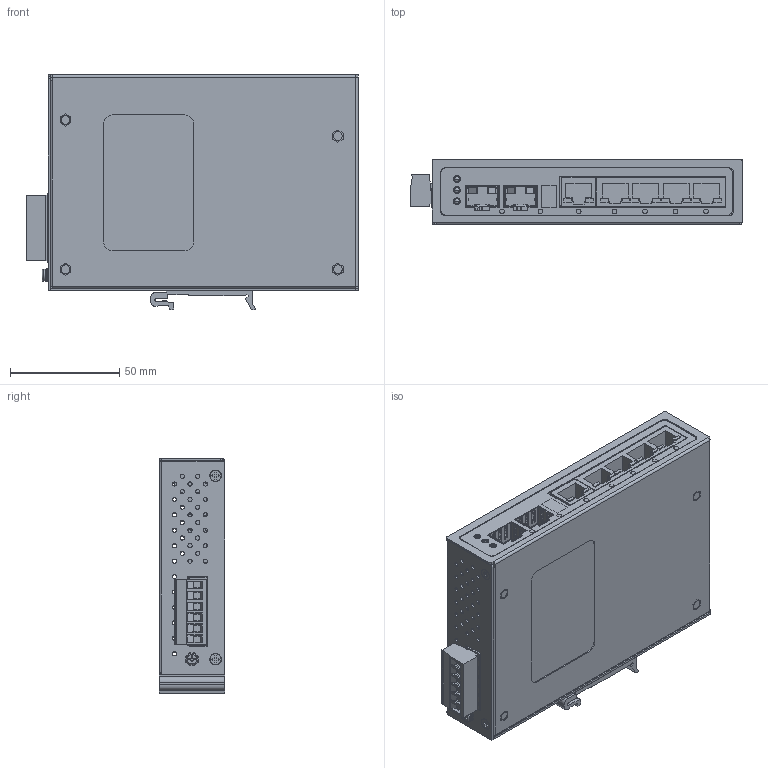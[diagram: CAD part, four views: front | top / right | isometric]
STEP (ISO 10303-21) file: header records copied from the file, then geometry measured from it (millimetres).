
FILE_DESCRIPTION((''),'2;1');
FILE_NAME('PT2-0702-SFP_ASM','2020-02-18T',('ASUS'),(''),'PRO/ENGINEER BY PARAMETRIC TECHNOLOGY CORPORATION, 2009440','PRO/ENGINEER BY PARAMETRIC TECHNOLOGY CORPORATION, 2009440','');
FILE_SCHEMA(('CONFIG_CONTROL_DESIGN'));
Products named in the file (22): PRT0001; PRT0002; PRT0003; ASM0003_ASM_ASM; PRT0004; PRT0005; PRT0006; ASM0006_ASM_ASM; ASM0005_ASM_ASM; PRT0007; PRT0008; PRT0009; ASM0004_ASM_ASM; PRT0015; PRT0016; PRT0017; PRT0018; PRT0019; PRT0020; ASM0002_ASM_ASM; PT2-0702-SFP_ASM_ASM; PT2-0702-SFP_ASM
Assembly tree (39 placements, depth 7):
  PT2-0702-SFP_ASM
    PT2-0702-SFP_ASM_ASM
      ASM0002_ASM_ASM
        ASM0003_ASM_ASM
          PRT0001
          PRT0002  x4
          PRT0003
        ASM0004_ASM_ASM
          PRT0004
          PRT0005
          ASM0005_ASM_ASM
            ASM0006_ASM_ASM
              PRT0006
          PRT0007  x6
          PRT0008
          PRT0009  x2
        PRT0015
        PRT0016  x10
        PRT0017
        PRT0018
        PRT0019
        PRT0020
Bounding box: 152.14 x 30 x 107.81 mm (x, y, z)
Volume: 73123.2 mm3; surface area: 121998.8 mm2
Topology: 33 solids, 39 shells, 4245 faces, 11942 edges, 7802 vertices
Faces by surface type: plane 2354, cylinder 1653, torus 104, cone 94, sphere 36, bspline 4
Entity records: 98486 total; most frequent: CARTESIAN_POINT 20732, DIRECTION 16519, ORIENTED_EDGE 16012, EDGE_CURVE 8006, AXIS2_PLACEMENT_3D 5662, VECTOR 5195, LINE 5195, VERTEX_POINT 5193
